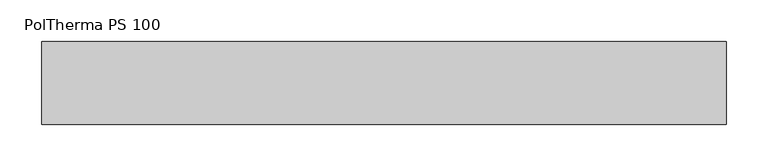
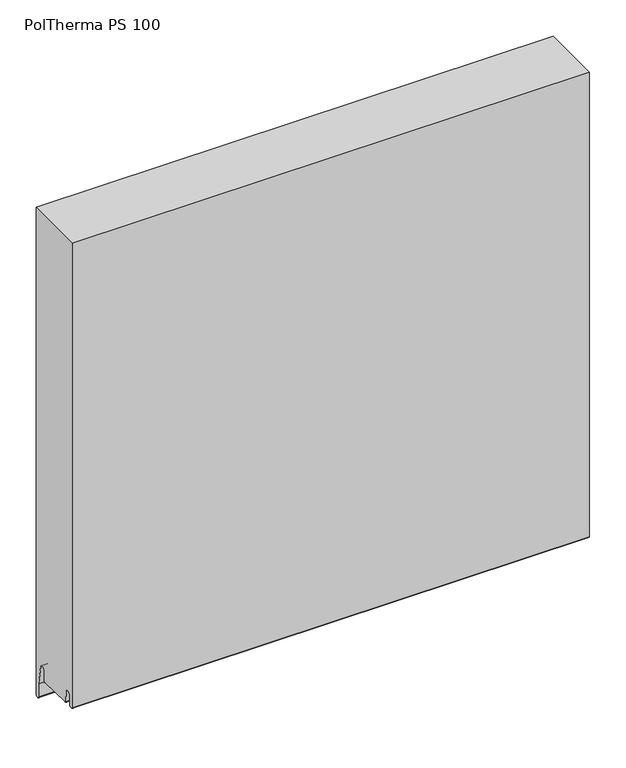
"""IFC4 building model written with IfcOpenShell, lengths in millimetres: plate geometry, Europanels_Poltherma PS_Hz : PolTherma PS 100."""

from ifc_helpers import new_model, si_unit, frame, origin, place, context, project, spatial, polyline, circle_curve, source, transform, mapped, element, save
from ifc_brep_helpers import plane_surface, cylinder_surface, revolved_surface, advanced_brep


def poltherma_ps_100_5d9a283f(model_context):
    return source(origin(), model_context, "Body", "AdvancedBrep", [
        advanced_brep(
        [(412.5, 50.0, 3.6911192), (412.5, 50.0, 825.0), (412.5, -50.0, 825.0), (412.5, -50.0, 41.7345224), (412.5, -47.9973085, 39.7345224), (412.5, -45.27015, 39.7345224), (412.5, -43.2805625, 41.5307044), (412.5, -42.306057, 59.5434261), (412.5, -39.3216758, 62.2376991), (412.5, -36.3730069, 62.2376991), (412.5, -33.3900718, 59.5572268), (412.5, -32.337447, 41.2981312), (412.5, -30.5974015, 39.7345224), (412.5, 25.3314364, 38.2345224), (412.5, 27.6798185, 40.4973354), (412.5, 28.3397973, 58.2738665), (412.5, 30.9832499, 60.7376991), (412.5, 34.3675437, 60.7376991), (412.5, 36.9690493, 58.5923462), (412.5, 43.3, 25.9556669), (412.5, 43.3, 3.2773261), (412.5, 45.8152999, 1.1585869), (412.5, 48.2152999, 1.57238), (-412.5, 50.0, 3.6911192), (-412.5, 48.2152999, 1.57238), (-412.5, 45.8152999, 1.1585869), (-412.5, 43.3, 3.2773261), (-412.5, 43.3, 25.9556669), (-412.5, 36.9690493, 58.5923462), (-412.5, 34.3675437, 60.7376991), (-412.5, 30.9832499, 60.7376991), (-412.5, 28.3397973, 58.2738665), (-412.5, 27.6798185, 40.4973354), (-412.5, 25.3314364, 38.2345224), (-412.5, -30.5974015, 39.7345224), (-412.5, -32.337447, 41.2981312), (-412.5, -33.3900718, 59.5572268), (-412.5, -36.3730069, 62.2376991), (-412.5, -39.3216758, 62.2376991), (-412.5, -42.306057, 59.5434261), (-412.5, -43.2805625, 41.5307044), (-412.5, -45.27015, 39.7345224), (-412.5, -47.9973085, 39.7345224), (-412.5, -49.9973085, 41.7345224), (-412.5, -50.0, 825.0), (-412.5, 50.0, 825.0)],
        [
            (0, 1),
            (1, 2),
            (2, 3),
            (3, 4, circle_curve(frame((412.5, -47.9973085, 41.7345224), z_axis=(1.0, 0.0, 0.0), x_axis=(0.0, 1.0, 0.0)), 2.0)),
            (4, 5),
            (5, 6, circle_curve(frame((412.5, -45.27015, 41.7345224), z_axis=(1.0, 0.0, 0.0), x_axis=(0.0, 1.0, 0.0)), 2.0)),
            (6, 7),
            (7, 8, circle_curve(frame((412.5, -39.3216758, 59.2376991), z_axis=(-1.0, 0.0, 0.0), x_axis=(0.0, 1.0, 0.0)), 3.0)),
            (8, 9),
            (9, 10, circle_curve(frame((412.5, -36.3730069, 59.2376991), z_axis=(-1.0, 0.0, 0.0), x_axis=(0.0, 1.0, 0.0)), 3.0)),
            (10, 11),
            (11, 12, circle_curve(frame((412.5, -30.5974015, 41.4845224), z_axis=(1.0, 0.0, 0.0), x_axis=(0.0, 1.0, 0.0)), 1.75)),
            (12, 13),
            (13, 14, circle_curve(frame((412.5, 25.3314364, 40.5845224), z_axis=(1.0, 0.0, 0.0), x_axis=(0.0, 1.0, 0.0)), 2.35)),
            (14, 15),
            (15, 16, circle_curve(frame((412.5, 30.9832499, 58.0876991), z_axis=(-1.0, 0.0, 0.0), x_axis=(0.0, 1.0, 0.0)), 2.65)),
            (16, 17),
            (17, 18, circle_curve(frame((412.5, 34.3675437, 58.0876991), z_axis=(-1.0, 0.0, 0.0), x_axis=(0.0, 1.0, 0.0)), 2.65)),
            (18, 19),
            (19, 20),
            (20, 21, circle_curve(frame((412.5, 45.45, 3.2773261), z_axis=(1.0, 0.0, 0.0), x_axis=(0.0, 1.0, 0.0)), 2.15)),
            (21, 22),
            (22, 0, circle_curve(frame((412.5, 47.85, 3.6911192), z_axis=(1.0, 0.0, 0.0), x_axis=(0.0, 1.0, 0.0)), 2.15)),
            (23, 24, circle_curve(frame((-412.5, 47.85, 3.6911192), z_axis=(-1.0, 0.0, 0.0), x_axis=(0.0, 1.0, 0.0)), 2.15)),
            (24, 25),
            (25, 26, circle_curve(frame((-412.5, 45.45, 3.2773261), z_axis=(-1.0, 0.0, 0.0), x_axis=(0.0, 1.0, 0.0)), 2.15)),
            (26, 27),
            (27, 28),
            (28, 29, circle_curve(frame((-412.5, 34.3675437, 58.0876991), z_axis=(1.0, 0.0, 0.0), x_axis=(0.0, 1.0, 0.0)), 2.65)),
            (29, 30),
            (30, 31, circle_curve(frame((-412.5, 30.9832499, 58.0876991), z_axis=(1.0, 0.0, 0.0), x_axis=(0.0, 1.0, 0.0)), 2.65)),
            (31, 32),
            (32, 33, circle_curve(frame((-412.5, 25.3314364, 40.5845224), z_axis=(-1.0, 0.0, 0.0), x_axis=(0.0, 1.0, 0.0)), 2.35)),
            (33, 34),
            (34, 35, circle_curve(frame((-412.5, -30.5974015, 41.4845224), z_axis=(-1.0, 0.0, 0.0), x_axis=(0.0, 1.0, 0.0)), 1.75)),
            (35, 36),
            (36, 37, circle_curve(frame((-412.5, -36.3730069, 59.2376991), z_axis=(1.0, 0.0, 0.0), x_axis=(0.0, 1.0, 0.0)), 3.0)),
            (37, 38),
            (38, 39, circle_curve(frame((-412.5, -39.3216758, 59.2376991), z_axis=(1.0, 0.0, 0.0), x_axis=(0.0, 1.0, 0.0)), 3.0)),
            (39, 40),
            (40, 41, circle_curve(frame((-412.5, -45.27015, 41.7345224), z_axis=(-1.0, 0.0, 0.0), x_axis=(0.0, 1.0, 0.0)), 2.0)),
            (41, 42),
            (42, 43, circle_curve(frame((-412.5, -47.9973085, 41.7345224), z_axis=(-1.0, 0.0, 0.0), x_axis=(0.0, 1.0, 0.0)), 2.0)),
            (43, 44),
            (44, 45),
            (45, 23),
            (0, 23),
            (45, 1),
            (2, 44),
            (43, 3),
            (42, 4),
            (41, 5),
            (40, 6),
            (39, 7),
            (38, 8),
            (37, 9),
            (36, 10),
            (35, 11),
            (34, 12),
            (33, 13),
            (32, 14),
            (31, 15),
            (30, 16),
            (29, 17),
            (28, 18),
            (27, 19),
            (26, 20),
            (25, 21),
            (24, 22),
        ],
        [
            plane_surface(frame((412.5, 50.0, 825.0), z_axis=(1.0, 0.0, 0.0), x_axis=(0.0, 0.0, 1.0))),
            plane_surface(frame((-412.5, 50.0, 825.0), z_axis=(-1.0, 0.0, 0.0), x_axis=(0.0, 0.0, -1.0))),
            plane_surface(frame((412.5, 50.0, 3.6911192), z_axis=(0.0, 1.0, 0.0), x_axis=(-1.0, 0.0, 0.0))),
            plane_surface(frame((412.5, -50.0, 825.0), z_axis=(0.0, -1.0, 0.0), x_axis=(-1.0, 0.0, 0.0))),
            cylinder_surface(frame((-412.5, -47.9973085, 41.7345224), z_axis=(1.0, 0.0, 0.0), x_axis=(0.0, 1.0, 0.0)), 2.0),
            plane_surface(frame((412.5, -47.9973085, 39.7345224), z_axis=(0.0, 0.0, -1.0), x_axis=(-1.0, 0.0, 0.0))),
            cylinder_surface(frame((-412.5, -45.27015, 41.7345224), z_axis=(1.0, 0.0, 0.0), x_axis=(0.0, 1.0, 0.0)), 2.0),
            plane_surface(frame((412.5, -43.2805625, 41.5307044), z_axis=(0.0, 0.9985397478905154, -0.05402195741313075), x_axis=(-1.0, 0.0, 0.0))),
            revolved_surface(polyline([(-412.5, -36.3216758, 59.2376991), (412.5, -36.3216758, 59.2376991)]), (-412.5, -39.3216758, 59.2376991), (-1.0, 0.0, 0.0)),
            plane_surface(frame((412.5, -39.3216758, 62.2376991), z_axis=(0.0, 0.0, -1.0), x_axis=(-1.0, 0.0, 0.0))),
            revolved_surface(polyline([(-412.5, -33.3730069, 59.2376991), (412.5, -33.3730069, 59.2376991)]), (-412.5, -36.3730069, 59.2376991), (-1.0, 0.0, 0.0)),
            plane_surface(frame((412.5, -33.3900718, 59.5572268), z_axis=(0.0, -0.9983424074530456, -0.05755377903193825), x_axis=(-1.0, 0.0, 0.0))),
            cylinder_surface(frame((-412.5, -30.5974015, 41.4845224), z_axis=(1.0, 0.0, 0.0), x_axis=(0.0, 1.0, 0.0)), 1.75),
            plane_surface(frame((412.5, -30.5974015, 39.7345224), z_axis=(0.0, -0.026810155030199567, -0.999640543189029), x_axis=(-1.0, 0.0, 0.0))),
            cylinder_surface(frame((-412.5, 25.3314364, 40.5845224), z_axis=(1.0, 0.0, 0.0), x_axis=(0.0, 1.0, 0.0)), 2.35),
            plane_surface(frame((412.5, 27.6798185, 40.4973354), z_axis=(0.0, 0.9993115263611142, -0.03710085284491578), x_axis=(-1.0, 0.0, 0.0))),
            revolved_surface(polyline([(-412.5, 33.6332499, 58.0876991), (412.5, 33.6332499, 58.0876991)]), (-412.5, 30.9832499, 58.0876991), (-1.0, 0.0, 0.0)),
            plane_surface(frame((412.5, 30.9832499, 60.7376991), z_axis=(0.0, -2.2622766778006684e-12, -1.0), x_axis=(-1.0, 0.0, 0.0))),
            revolved_surface(polyline([(-412.5, 37.0175437, 58.0876991), (412.5, 37.0175437, 58.0876991)]), (-412.5, 34.3675437, 58.0876991), (-1.0, 0.0, 0.0)),
            plane_surface(frame((412.5, 36.9690493, 58.5923462), z_axis=(0.0, -0.9817002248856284, -0.19043284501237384), x_axis=(-1.0, 0.0, 0.0))),
            plane_surface(frame((412.5, 43.3, 25.9556669), z_axis=(0.0, -1.0, 0.0), x_axis=(-1.0, 0.0, 0.0))),
            cylinder_surface(frame((-412.5, 45.45, 3.2773261), z_axis=(1.0, 0.0, 0.0), x_axis=(0.0, 1.0, 0.0)), 2.15),
            plane_surface(frame((412.5, 45.8152999, 1.1585869), z_axis=(0.0, 0.16990691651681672, -0.9854601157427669), x_axis=(-1.0, 0.0, 0.0))),
            cylinder_surface(frame((-412.5, 47.85, 3.6911192), z_axis=(1.0, 0.0, 0.0), x_axis=(0.0, 1.0, 0.0)), 2.15),
            plane_surface(frame((412.5, 50.0, 825.0), z_axis=(0.0, 0.0, 1.0), x_axis=(-1.0, 0.0, 0.0))),
        ],
        [
            (0, [[1, 2, 3, 4, 5, 6, 7, 8, 9, 10, 11, 12, 13, 14, 15, 16, 17, 18, 19, 20, 21, 22, 23]]),
            (1, [[24, 25, 26, 27, 28, 29, 30, 31, 32, 33, 34, 35, 36, 37, 38, 39, 40, 41, 42, 43, 44, 45, 46]]),
            (2, [[-1, 47, -46, 48]]),
            (3, [[-3, 49, -44, 50]]),
            (4, [[-4, -50, -43, 51]]),
            (5, [[-5, -51, -42, 52]]),
            (6, [[-6, -52, -41, 53]]),
            (7, [[-7, -53, -40, 54]]),
            (8, [[-8, -54, -39, 55]]),
            (9, [[-9, -55, -38, 56]]),
            (10, [[-10, -56, -37, 57]]),
            (11, [[-11, -57, -36, 58]]),
            (12, [[-12, -58, -35, 59]]),
            (13, [[-13, -59, -34, 60]]),
            (14, [[-14, -60, -33, 61]]),
            (15, [[-15, -61, -32, 62]]),
            (16, [[-16, -62, -31, 63]]),
            (17, [[-17, -63, -30, 64]]),
            (18, [[-18, -64, -29, 65]]),
            (19, [[-19, -65, -28, 66]]),
            (20, [[-20, -66, -27, 67]]),
            (21, [[-21, -67, -26, 68]]),
            (22, [[-22, -68, -25, 69]]),
            (23, [[-23, -69, -24, -47]]),
            (24, [[-2, -48, -45, -49]]),
        ],
    ),
    ])


if __name__ == "__main__":
    model = new_model("IFC4")
    model_context = context("Model", 3, world=origin())
    ifc_project = project(units=[si_unit("LENGTHUNIT", "METRE", prefix="MILLI")], contexts=[model_context])
    site = spatial("IfcSite", under=ifc_project)
    building = spatial("IfcBuilding", under=site)
    placement = place(None, origin())
    poltherma_ps_100_shape = poltherma_ps_100_5d9a283f(model_context)
    element("IfcPlate", 1, ObjectType="Europanels_Poltherma PS_Hz : PolTherma PS 100", at=placement, inside=building, context=model_context, shape_type="MappedRepresentation", body=[
        mapped(poltherma_ps_100_shape, transform((0.0, 0.0, 0.0), x_axis=(1.0, 0.0, 0.0), y_axis=(0.0, 1.0, 0.0), z_axis=(0.0, 0.0, 1.0))),
    ])
    save(model, "model.ifc")
